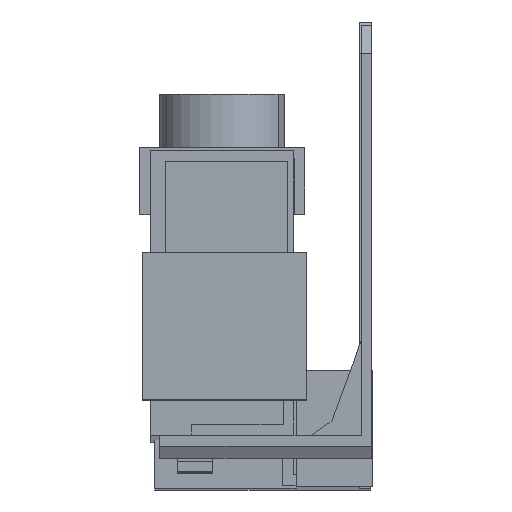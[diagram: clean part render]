
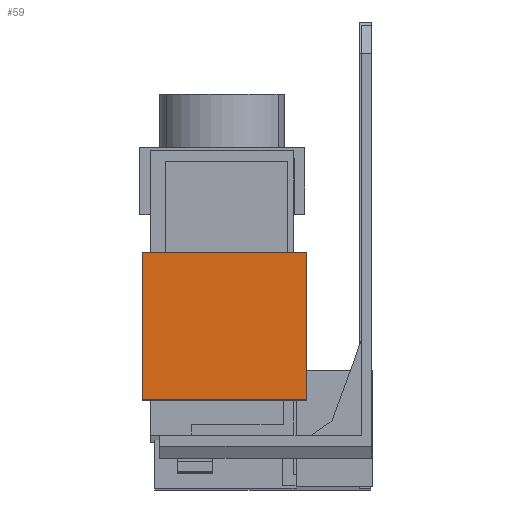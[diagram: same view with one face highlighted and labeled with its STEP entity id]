
A CAD part, front view. The second image highlights one B-rep face of the part: STEP entity #59.
In plain terms, the highlighted planar face has unit normal (0, -1, 0.003).
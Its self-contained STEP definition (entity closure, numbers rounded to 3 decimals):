
#59 = ADVANCED_FACE ( 'NONE', ( #1521 ), #5566, .T. ) ;
#249 = EDGE_CURVE ( 'NONE', #5804, #5806, #1940, .T. ) ;
#354 = EDGE_CURVE ( 'NONE', #5808, #5805, #2044, .T. ) ;
#724 = ORIENTED_EDGE ( 'NONE', *, *, #249, .T. ) ;
#725 = ORIENTED_EDGE ( 'NONE', *, *, #1044, .F. ) ;
#726 = ORIENTED_EDGE ( 'NONE', *, *, #354, .F. ) ;
#728 = ORIENTED_EDGE ( 'NONE', *, *, #1030, .T. ) ;
#1030 = EDGE_CURVE ( 'NONE', #5808, #5804, #4124, .T. ) ;
#1044 = EDGE_CURVE ( 'NONE', #5805, #5806, #4111, .T. ) ;
#1081 = EDGE_LOOP ( 'NONE', ( #724, #725, #726, #728 ) ) ;
#1521 = FACE_OUTER_BOUND ( 'NONE', #1081, .T. ) ;
#1931 = AXIS2_PLACEMENT_3D ( 'NONE', #5574, #5568, #5576 ) ;
#1940 = LINE ( 'NONE', #2834, #1964 ) ;
#1964 = VECTOR ( 'NONE', #2839, 1000. ) ;
#2044 = LINE ( 'NONE', #2898, #2046 ) ;
#2046 = VECTOR ( 'NONE', #2903, 1000. ) ;
#2834 = CARTESIAN_POINT ( 'NONE',  ( -9.3, -31.452, -19.316 ) ) ;
#2839 = DIRECTION ( 'NONE',  ( -1., 0., 0. ) ) ;
#2898 = CARTESIAN_POINT ( 'NONE',  ( -9.3, -31.509, -40.315 ) ) ;
#2903 = DIRECTION ( 'NONE',  ( -1., 0., 0. ) ) ;
#3257 = CARTESIAN_POINT ( 'NONE',  ( -9.3, -31.509, -40.315 ) ) ;
#3264 = DIRECTION ( 'NONE',  ( 0., 0.003, 1. ) ) ;
#3269 = CARTESIAN_POINT ( 'NONE',  ( -32.7, -31.509, -40.315 ) ) ;
#3272 = DIRECTION ( 'NONE',  ( 0., 0.003, 1. ) ) ;
#4111 = LINE ( 'NONE', #3269, #4132 ) ;
#4115 = VECTOR ( 'NONE', #3264, 1000. ) ;
#4124 = LINE ( 'NONE', #3257, #4115 ) ;
#4132 = VECTOR ( 'NONE', #3272, 1000. ) ;
#5451 = CARTESIAN_POINT ( 'NONE',  ( -9.3, -31.452, -19.316 ) ) ;
#5452 = CARTESIAN_POINT ( 'NONE',  ( -32.7, -31.509, -40.315 ) ) ;
#5453 = CARTESIAN_POINT ( 'NONE',  ( -32.7, -31.452, -19.316 ) ) ;
#5455 = CARTESIAN_POINT ( 'NONE',  ( -9.3, -31.509, -40.315 ) ) ;
#5566 = PLANE ( 'NONE',  #1931 ) ;
#5568 = DIRECTION ( 'NONE',  ( 0., -1., 0.003 ) ) ;
#5574 = CARTESIAN_POINT ( 'NONE',  ( -9.3, -31.509, -40.315 ) ) ;
#5576 = DIRECTION ( 'NONE',  ( 1., 0., 0. ) ) ;
#5804 = VERTEX_POINT ( 'NONE', #5451 ) ;
#5805 = VERTEX_POINT ( 'NONE', #5452 ) ;
#5806 = VERTEX_POINT ( 'NONE', #5453 ) ;
#5808 = VERTEX_POINT ( 'NONE', #5455 ) ;
